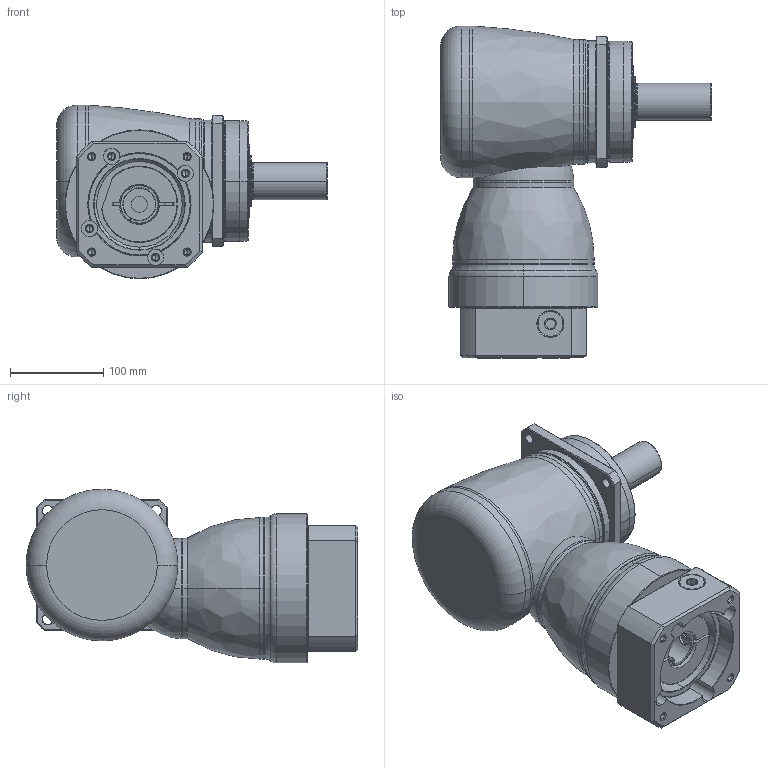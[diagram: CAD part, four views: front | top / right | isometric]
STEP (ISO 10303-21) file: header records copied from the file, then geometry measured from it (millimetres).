
FILE_DESCRIPTION((''),'2;1');
FILE_NAME('KF140_1ST_35-P0409800101_ASM','2016-06-22T',('d01943'),(''),'PRO/ENGINEER BY PARAMETRIC TECHNOLOGY CORPORATION, 2008410','PRO/ENGINEER BY PARAMETRIC TECHNOLOGY CORPORATION, 2008410','');
FILE_SCHEMA(('CONFIG_CONTROL_DESIGN'));
Length unit declared in the file: millimetre
Products named in the file (11): P1008500002; P1804500001; P0915500001; P1315500001; P1007500001; P1318500301; P0409800101; P0503800012; P0912503201; 21711422019; KF140_1ST_35-P0409800101_ASM
Assembly tree (10 placements, depth 2):
  KF140_1ST_35-P0409800101_ASM
    P1008500002
    P1804500001
    P0915500001
    P1315500001
    P1007500001
    P1318500301
    P0409800101
    P0503800012
    P0912503201
    21711422019
Bounding box: 291 x 356.5 x 186.5 mm (x, y, z)
Volume: 4948263.7 mm3; surface area: 559838.2 mm2
Topology: 11 solids, 11 shells, 466 faces, 1059 edges, 631 vertices
Faces by surface type: cylinder 156, cone 128, plane 97, torus 62, bspline 21, sphere 2
Entity records: 18157 total; most frequent: CARTESIAN_POINT 7416, DIRECTION 2374, ORIENTED_EDGE 2082, EDGE_CURVE 1041, AXIS2_PLACEMENT_3D 1007, VERTEX_POINT 631, CIRCLE 541, EDGE_LOOP 534
